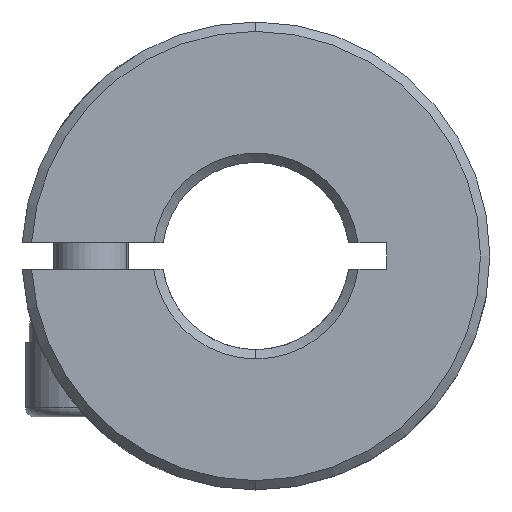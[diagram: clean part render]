
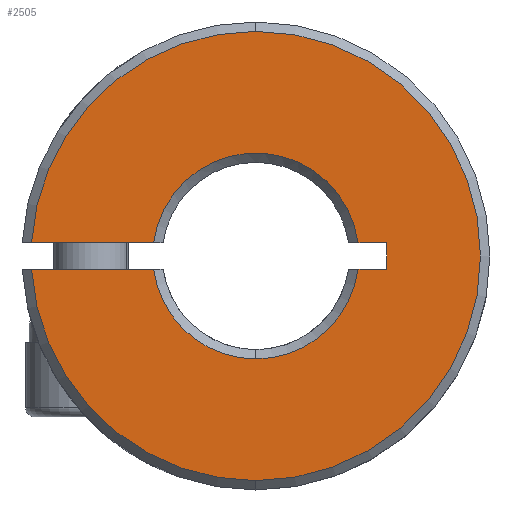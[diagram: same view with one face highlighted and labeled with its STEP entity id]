
A CAD part, front view. The second image highlights one B-rep face of the part: STEP entity #2505.
In plain terms, the highlighted planar face has unit normal (0, -1, 0).
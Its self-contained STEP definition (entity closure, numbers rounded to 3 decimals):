
#136 = DIRECTION ( 'NONE',  ( -1., 0., 0. ) ) ;
#146 = EDGE_CURVE ( 'NONE', #1936, #3523, #1147, .T. ) ;
#256 = CARTESIAN_POINT ( 'NONE',  ( 0., 0.25, -5.5 ) ) ;
#278 = VERTEX_POINT ( 'NONE', #4255 ) ;
#424 = CIRCLE ( 'NONE', #4601, 12. ) ;
#467 = CARTESIAN_POINT ( 'NONE',  ( -500., 0.25, -13.609 ) ) ;
#479 = LINE ( 'NONE', #5843, #3059 ) ;
#490 = EDGE_CURVE ( 'NONE', #2912, #3523, #479, .T. ) ;
#515 = DIRECTION ( 'NONE',  ( 0., 0., 1. ) ) ;
#576 = DIRECTION ( 'NONE',  ( 0., 1., 0. ) ) ;
#621 = AXIS2_PLACEMENT_3D ( 'NONE', #1709, #4060, #2191 ) ;
#752 = EDGE_CURVE ( 'NONE', #5846, #278, #1216, .T. ) ;
#803 = ORIENTED_EDGE ( 'NONE', *, *, #146, .T. ) ;
#877 = CIRCLE ( 'NONE', #3314, 5.5 ) ;
#933 = ORIENTED_EDGE ( 'NONE', *, *, #5106, .F. ) ;
#1009 = VECTOR ( 'NONE', #4068, 1000. ) ;
#1105 = CARTESIAN_POINT ( 'NONE',  ( -12.75, 0.25, -0.7 ) ) ;
#1147 = CIRCLE ( 'NONE', #2510, 12. ) ;
#1154 = CARTESIAN_POINT ( 'NONE',  ( 0., 0.25, 0. ) ) ;
#1171 = ORIENTED_EDGE ( 'NONE', *, *, #752, .F. ) ;
#1189 = DIRECTION ( 'NONE',  ( 0., 0., 1. ) ) ;
#1192 = DIRECTION ( 'NONE',  ( 1., 0., 0. ) ) ;
#1206 = AXIS2_PLACEMENT_3D ( 'NONE', #467, #3336, #515 ) ;
#1216 = LINE ( 'NONE', #5804, #5894 ) ;
#1375 = DIRECTION ( 'NONE',  ( 0., 0., 1. ) ) ;
#1416 = ORIENTED_EDGE ( 'NONE', *, *, #5375, .F. ) ;
#1508 = DIRECTION ( 'NONE',  ( 0., 0., 1. ) ) ;
#1592 = VERTEX_POINT ( 'NONE', #3400 ) ;
#1709 = CARTESIAN_POINT ( 'NONE',  ( 0., 0.25, 0. ) ) ;
#1789 = ORIENTED_EDGE ( 'NONE', *, *, #5422, .T. ) ;
#1936 = VERTEX_POINT ( 'NONE', #2668 ) ;
#2027 = DIRECTION ( 'NONE',  ( 1., 0., 0. ) ) ;
#2075 = CARTESIAN_POINT ( 'NONE',  ( 0., 0.25, 0. ) ) ;
#2081 = CARTESIAN_POINT ( 'NONE',  ( 0., 0.25, -12. ) ) ;
#2087 = ORIENTED_EDGE ( 'NONE', *, *, #490, .F. ) ;
#2127 = EDGE_CURVE ( 'NONE', #2912, #1592, #3119, .T. ) ;
#2191 = DIRECTION ( 'NONE',  ( 0., 0., 1. ) ) ;
#2277 = CIRCLE ( 'NONE', #621, 12. ) ;
#2292 = AXIS2_PLACEMENT_3D ( 'NONE', #5925, #4014, #1189 ) ;
#2408 = DIRECTION ( 'NONE',  ( 0., 1., 0. ) ) ;
#2505 = ADVANCED_FACE ( 'NONE', ( #5707 ), #3788, .F. ) ;
#2510 = AXIS2_PLACEMENT_3D ( 'NONE', #3791, #4675, #1375 ) ;
#2561 = VERTEX_POINT ( 'NONE', #4692 ) ;
#2580 = EDGE_CURVE ( 'NONE', #4548, #5545, #877, .T. ) ;
#2668 = CARTESIAN_POINT ( 'NONE',  ( 0., 0.25, 12. ) ) ;
#2708 = CIRCLE ( 'NONE', #2292, 5.5 ) ;
#2912 = VERTEX_POINT ( 'NONE', #3632 ) ;
#2917 = LINE ( 'NONE', #5009, #5166 ) ;
#2948 = DIRECTION ( 'NONE',  ( 0., 0., 1. ) ) ;
#2997 = VERTEX_POINT ( 'NONE', #6066 ) ;
#3059 = VECTOR ( 'NONE', #136, 1000. ) ;
#3119 = CIRCLE ( 'NONE', #3671, 5.5 ) ;
#3314 = AXIS2_PLACEMENT_3D ( 'NONE', #3357, #576, #1508 ) ;
#3336 = DIRECTION ( 'NONE',  ( 0., 1., 0. ) ) ;
#3350 = CARTESIAN_POINT ( 'NONE',  ( 7., 0.25, -0.7 ) ) ;
#3357 = CARTESIAN_POINT ( 'NONE',  ( 0., 0.25, 0. ) ) ;
#3363 = DIRECTION ( 'NONE',  ( 0., 0., 1. ) ) ;
#3369 = VECTOR ( 'NONE', #2027, 1000. ) ;
#3400 = CARTESIAN_POINT ( 'NONE',  ( 5.455, 0.25, 0.7 ) ) ;
#3428 = CARTESIAN_POINT ( 'NONE',  ( 5.455, 0.25, -0.7 ) ) ;
#3451 = ORIENTED_EDGE ( 'NONE', *, *, #2580, .T. ) ;
#3489 = CARTESIAN_POINT ( 'NONE',  ( -12.75, 0.25, 0.7 ) ) ;
#3523 = VERTEX_POINT ( 'NONE', #4332 ) ;
#3632 = CARTESIAN_POINT ( 'NONE',  ( -5.455, 0.25, 0.7 ) ) ;
#3671 = AXIS2_PLACEMENT_3D ( 'NONE', #1154, #2408, #3363 ) ;
#3764 = EDGE_CURVE ( 'NONE', #4126, #1936, #2277, .T. ) ;
#3788 = PLANE ( 'NONE',  #1206 ) ;
#3791 = CARTESIAN_POINT ( 'NONE',  ( 0., 0.25, 0. ) ) ;
#4014 = DIRECTION ( 'NONE',  ( 0., 1., 0. ) ) ;
#4060 = DIRECTION ( 'NONE',  ( 0., -1., 0. ) ) ;
#4068 = DIRECTION ( 'NONE',  ( -1., 0., 0. ) ) ;
#4126 = VERTEX_POINT ( 'NONE', #2081 ) ;
#4188 = ORIENTED_EDGE ( 'NONE', *, *, #3764, .T. ) ;
#4255 = CARTESIAN_POINT ( 'NONE',  ( 7., 0.25, 0.7 ) ) ;
#4332 = CARTESIAN_POINT ( 'NONE',  ( -11.98, 0.25, 0.7 ) ) ;
#4338 = LINE ( 'NONE', #3489, #1009 ) ;
#4359 = DIRECTION ( 'NONE',  ( 0., -1., 0. ) ) ;
#4429 = DIRECTION ( 'NONE',  ( 0., 0., 1. ) ) ;
#4548 = VERTEX_POINT ( 'NONE', #3428 ) ;
#4601 = AXIS2_PLACEMENT_3D ( 'NONE', #2075, #4359, #4429 ) ;
#4675 = DIRECTION ( 'NONE',  ( 0., -1., 0. ) ) ;
#4692 = CARTESIAN_POINT ( 'NONE',  ( -11.98, 0.25, -0.7 ) ) ;
#4896 = EDGE_CURVE ( 'NONE', #2561, #4126, #424, .T. ) ;
#4910 = ORIENTED_EDGE ( 'NONE', *, *, #4975, .F. ) ;
#4932 = LINE ( 'NONE', #1105, #3369 ) ;
#4975 = EDGE_CURVE ( 'NONE', #278, #1592, #4338, .T. ) ;
#5009 = CARTESIAN_POINT ( 'NONE',  ( -12.75, 0.25, -0.7 ) ) ;
#5106 = EDGE_CURVE ( 'NONE', #2561, #2997, #2917, .T. ) ;
#5166 = VECTOR ( 'NONE', #1192, 1000. ) ;
#5195 = ORIENTED_EDGE ( 'NONE', *, *, #4896, .T. ) ;
#5375 = EDGE_CURVE ( 'NONE', #4548, #5846, #4932, .T. ) ;
#5422 = EDGE_CURVE ( 'NONE', #5545, #2997, #2708, .T. ) ;
#5538 = ORIENTED_EDGE ( 'NONE', *, *, #2127, .T. ) ;
#5545 = VERTEX_POINT ( 'NONE', #256 ) ;
#5707 = FACE_OUTER_BOUND ( 'NONE', #5908, .T. ) ;
#5804 = CARTESIAN_POINT ( 'NONE',  ( 7., 0.25, 0.7 ) ) ;
#5843 = CARTESIAN_POINT ( 'NONE',  ( -12.75, 0.25, 0.7 ) ) ;
#5846 = VERTEX_POINT ( 'NONE', #3350 ) ;
#5894 = VECTOR ( 'NONE', #2948, 1000. ) ;
#5908 = EDGE_LOOP ( 'NONE', ( #1416, #3451, #1789, #933, #5195, #4188, #803, #2087, #5538, #4910, #1171 ) ) ;
#5925 = CARTESIAN_POINT ( 'NONE',  ( 0., 0.25, 0. ) ) ;
#6066 = CARTESIAN_POINT ( 'NONE',  ( -5.455, 0.25, -0.7 ) ) ;
